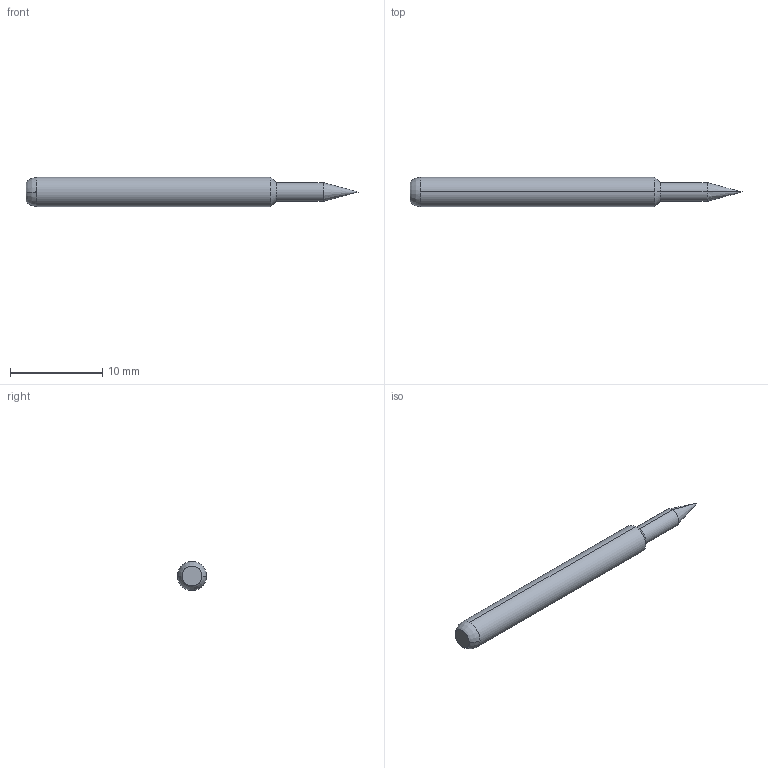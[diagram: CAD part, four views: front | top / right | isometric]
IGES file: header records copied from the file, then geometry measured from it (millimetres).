
Start section: SolidWorks IGES file using analytic representation for surfaces
Global section: file name: Z:\probe solid model mockups\Solidworks models\IGES Files\EPA-5 IGES files\EPA-5B.IGS; native system: SolidWorks 2006 by SolidWorks Corporation; preprocessor: SolidWorks 2006 by SolidWorks Corporation; author: tsakatani; date: 080103.110652; units: inch
Bounding box: 36.07 x 3.17 x 3.17 mm (x, y, z)
Surface area: 320.7 mm2 (no closed solid volume)
Topology: 0 solids, 0 shells, 11 faces, 76 edges, 74 vertices
Faces by surface type: revolution 10, bspline 1
